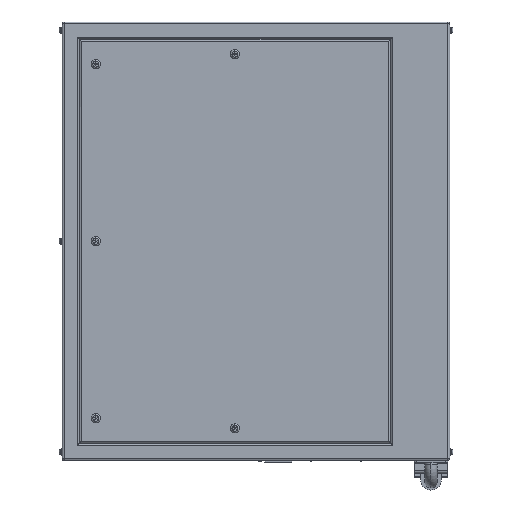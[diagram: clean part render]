
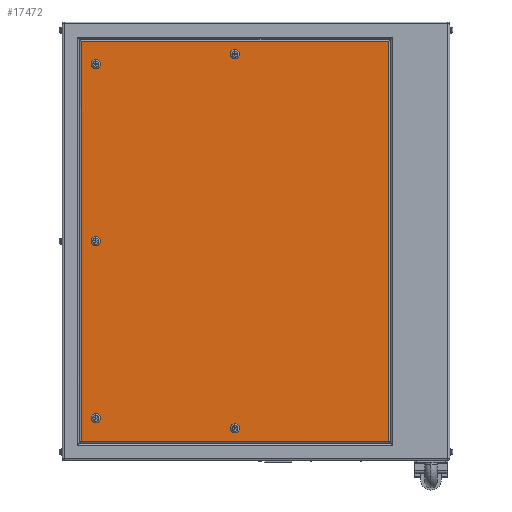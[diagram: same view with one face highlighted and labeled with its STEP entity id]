
A CAD part, left-side view. The second image highlights one B-rep face of the part: STEP entity #17472.
In plain terms, the highlighted planar face has unit normal (-1, 0, 0).
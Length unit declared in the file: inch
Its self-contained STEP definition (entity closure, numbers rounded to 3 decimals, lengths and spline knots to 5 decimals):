
#145 = CARTESIAN_POINT ( 'NONE',  ( -12., 23., -26. ) ) ;
#448 = DIRECTION ( 'NONE',  ( 1., 0., 0. ) ) ;
#458 = DIRECTION ( 'NONE',  ( 1., 0., 0. ) ) ;
#465 = ORIENTED_EDGE ( 'NONE', *, *, #19502, .T. ) ;
#794 = EDGE_CURVE ( 'NONE', #7923, #2666, #20887, .T. ) ;
#887 = CARTESIAN_POINT ( 'NONE',  ( -12., 2.5, -21.64 ) ) ;
#1031 = EDGE_CURVE ( 'NONE', #2841, #5471, #5040, .T. ) ;
#1073 = EDGE_LOOP ( 'NONE', ( #24001, #21804 ) ) ;
#1348 = ORIENTED_EDGE ( 'NONE', *, *, #5578, .T. ) ;
#1767 = LINE ( 'NONE', #19506, #7231 ) ;
#1866 = AXIS2_PLACEMENT_3D ( 'NONE', #4134, #448, #7907 ) ;
#2500 = DIRECTION ( 'NONE',  ( 0., 0., -1. ) ) ;
#2578 = DIRECTION ( 'NONE',  ( 0., 0., 1. ) ) ;
#2666 = VERTEX_POINT ( 'NONE', #11913 ) ;
#2757 = LINE ( 'NONE', #15377, #14187 ) ;
#2841 = VERTEX_POINT ( 'NONE', #3549 ) ;
#3188 = DIRECTION ( 'NONE',  ( 0., 0., -1. ) ) ;
#3419 = CIRCLE ( 'NONE', #16991, 0.55 ) ;
#3549 = CARTESIAN_POINT ( 'NONE',  ( -12., 19., -20.45 ) ) ;
#3644 = CARTESIAN_POINT ( 'NONE',  ( -12., 2.5, 22.19 ) ) ;
#4032 = AXIS2_PLACEMENT_3D ( 'NONE', #12171, #17803, #2578 ) ;
#4052 = ORIENTED_EDGE ( 'NONE', *, *, #13718, .T. ) ;
#4063 = CIRCLE ( 'NONE', #18862, 0.55 ) ;
#4134 = CARTESIAN_POINT ( 'NONE',  ( -12., 2.5, -22.19 ) ) ;
#4142 = AXIS2_PLACEMENT_3D ( 'NONE', #6626, #14022, #8064 ) ;
#4162 = EDGE_LOOP ( 'NONE', ( #6390, #24004, #19660, #1348 ) ) ;
#4254 = VERTEX_POINT ( 'NONE', #11361 ) ;
#4354 = EDGE_CURVE ( 'NONE', #21518, #13453, #13665, .T. ) ;
#4669 = CARTESIAN_POINT ( 'NONE',  ( -12., 23., 23.74 ) ) ;
#4746 = DIRECTION ( 'NONE',  ( 0., -1., 0. ) ) ;
#4821 = CIRCLE ( 'NONE', #10273, 0.55 ) ;
#4961 = EDGE_LOOP ( 'NONE', ( #6356, #7860 ) ) ;
#5040 = CIRCLE ( 'NONE', #18657, 0.55 ) ;
#5082 = CIRCLE ( 'NONE', #8168, 0.55 ) ;
#5094 = FACE_BOUND ( 'NONE', #15494, .T. ) ;
#5199 = ORIENTED_EDGE ( 'NONE', *, *, #14378, .T. ) ;
#5210 = FACE_BOUND ( 'NONE', #16917, .T. ) ;
#5213 = CARTESIAN_POINT ( 'NONE',  ( -12., 19., -21. ) ) ;
#5471 = VERTEX_POINT ( 'NONE', #13075 ) ;
#5578 = EDGE_CURVE ( 'NONE', #13453, #14496, #2757, .T. ) ;
#6319 = EDGE_CURVE ( 'NONE', #5471, #2841, #4821, .T. ) ;
#6356 = ORIENTED_EDGE ( 'NONE', *, *, #11640, .T. ) ;
#6390 = ORIENTED_EDGE ( 'NONE', *, *, #14807, .T. ) ;
#6571 = AXIS2_PLACEMENT_3D ( 'NONE', #145, #9212, #15262 ) ;
#6626 = CARTESIAN_POINT ( 'NONE',  ( -12., 19., 21. ) ) ;
#6696 = CARTESIAN_POINT ( 'NONE',  ( -12., 19., 0. ) ) ;
#6907 = FACE_BOUND ( 'NONE', #1073, .T. ) ;
#6936 = VERTEX_POINT ( 'NONE', #19802 ) ;
#7231 = VECTOR ( 'NONE', #4746, 39.37008 ) ;
#7738 = VERTEX_POINT ( 'NONE', #20113 ) ;
#7860 = ORIENTED_EDGE ( 'NONE', *, *, #10520, .T. ) ;
#7907 = DIRECTION ( 'NONE',  ( 0., 0., 1. ) ) ;
#7914 = DIRECTION ( 'NONE',  ( 0., 0., -1. ) ) ;
#7923 = VERTEX_POINT ( 'NONE', #8467 ) ;
#8064 = DIRECTION ( 'NONE',  ( 0., 0., -1. ) ) ;
#8168 = AXIS2_PLACEMENT_3D ( 'NONE', #3644, #18521, #9237 ) ;
#8364 = CARTESIAN_POINT ( 'NONE',  ( -12., 19., -21. ) ) ;
#8467 = CARTESIAN_POINT ( 'NONE',  ( -12., 19., 21.55 ) ) ;
#8725 = CARTESIAN_POINT ( 'NONE',  ( -12., 2.5, 21.64 ) ) ;
#9212 = DIRECTION ( 'NONE',  ( 1., 0., 0. ) ) ;
#9237 = DIRECTION ( 'NONE',  ( 0., 0., -1. ) ) ;
#9583 = CARTESIAN_POINT ( 'NONE',  ( -12., 19., -0.55 ) ) ;
#9745 = CARTESIAN_POINT ( 'NONE',  ( -12., 19., 21. ) ) ;
#9869 = VERTEX_POINT ( 'NONE', #887 ) ;
#10104 = CARTESIAN_POINT ( 'NONE',  ( -12., 19., 0. ) ) ;
#10273 = AXIS2_PLACEMENT_3D ( 'NONE', #8364, #17141, #22713 ) ;
#10337 = DIRECTION ( 'NONE',  ( 1., 0., 0. ) ) ;
#10520 = EDGE_CURVE ( 'NONE', #6936, #14129, #3419, .T. ) ;
#10678 = PLANE ( 'NONE',  #6571 ) ;
#11174 = AXIS2_PLACEMENT_3D ( 'NONE', #15072, #18875, #20593 ) ;
#11361 = CARTESIAN_POINT ( 'NONE',  ( -12., 2.5, 22.74 ) ) ;
#11640 = EDGE_CURVE ( 'NONE', #14129, #6936, #23550, .T. ) ;
#11913 = CARTESIAN_POINT ( 'NONE',  ( -12., 19., 20.45 ) ) ;
#12088 = DIRECTION ( 'NONE',  ( 0., 1., 0. ) ) ;
#12171 = CARTESIAN_POINT ( 'NONE',  ( -12., 2.5, -22.19 ) ) ;
#12339 = CIRCLE ( 'NONE', #1866, 0.55 ) ;
#12503 = FACE_OUTER_BOUND ( 'NONE', #4162, .T. ) ;
#12993 = VERTEX_POINT ( 'NONE', #19299 ) ;
#13075 = CARTESIAN_POINT ( 'NONE',  ( -12., 19., -21.55 ) ) ;
#13453 = VERTEX_POINT ( 'NONE', #17933 ) ;
#13665 = LINE ( 'NONE', #4669, #14142 ) ;
#13718 = EDGE_CURVE ( 'NONE', #9869, #12993, #18060, .T. ) ;
#14022 = DIRECTION ( 'NONE',  ( 1., 0., 0. ) ) ;
#14129 = VERTEX_POINT ( 'NONE', #9583 ) ;
#14142 = VECTOR ( 'NONE', #12088, 39.37008 ) ;
#14187 = VECTOR ( 'NONE', #2500, 39.37008 ) ;
#14330 = FACE_BOUND ( 'NONE', #4961, .T. ) ;
#14378 = EDGE_CURVE ( 'NONE', #2666, #7923, #4063, .T. ) ;
#14496 = VERTEX_POINT ( 'NONE', #14999 ) ;
#14800 = DIRECTION ( 'NONE',  ( 0., 0., -1. ) ) ;
#14807 = EDGE_CURVE ( 'NONE', #14496, #7738, #1767, .T. ) ;
#14814 = CARTESIAN_POINT ( 'NONE',  ( -12., -15.74, -26. ) ) ;
#14999 = CARTESIAN_POINT ( 'NONE',  ( -12., 20.74, -23.74 ) ) ;
#15072 = CARTESIAN_POINT ( 'NONE',  ( -12., 2.5, 22.19 ) ) ;
#15262 = DIRECTION ( 'NONE',  ( 0., 0., -1. ) ) ;
#15377 = CARTESIAN_POINT ( 'NONE',  ( -12., 20.74, -26. ) ) ;
#15494 = EDGE_LOOP ( 'NONE', ( #5199, #18768 ) ) ;
#16642 = DIRECTION ( 'NONE',  ( 1., 0., 0. ) ) ;
#16917 = EDGE_LOOP ( 'NONE', ( #22580, #4052 ) ) ;
#16991 = AXIS2_PLACEMENT_3D ( 'NONE', #6696, #19857, #3188 ) ;
#17114 = EDGE_CURVE ( 'NONE', #12993, #9869, #12339, .T. ) ;
#17141 = DIRECTION ( 'NONE',  ( 1., 0., 0. ) ) ;
#17447 = VERTEX_POINT ( 'NONE', #8725 ) ;
#17472 = ADVANCED_FACE ( 'NONE', ( #5210, #23547, #6907, #14330, #5094, #12503 ), #10678, .F. ) ;
#17803 = DIRECTION ( 'NONE',  ( 1., 0., 0. ) ) ;
#17933 = CARTESIAN_POINT ( 'NONE',  ( -12., 20.74, 23.74 ) ) ;
#18060 = CIRCLE ( 'NONE', #4032, 0.55 ) ;
#18111 = CARTESIAN_POINT ( 'NONE',  ( -12., -15.74, 23.74 ) ) ;
#18521 = DIRECTION ( 'NONE',  ( 1., 0., 0. ) ) ;
#18627 = EDGE_LOOP ( 'NONE', ( #465, #23616 ) ) ;
#18657 = AXIS2_PLACEMENT_3D ( 'NONE', #5213, #16642, #14800 ) ;
#18768 = ORIENTED_EDGE ( 'NONE', *, *, #794, .T. ) ;
#18862 = AXIS2_PLACEMENT_3D ( 'NONE', #9745, #458, #7914 ) ;
#18875 = DIRECTION ( 'NONE',  ( 1., 0., 0. ) ) ;
#19299 = CARTESIAN_POINT ( 'NONE',  ( -12., 2.5, -22.74 ) ) ;
#19502 = EDGE_CURVE ( 'NONE', #17447, #4254, #21682, .T. ) ;
#19504 = DIRECTION ( 'NONE',  ( 0., 0., -1. ) ) ;
#19506 = CARTESIAN_POINT ( 'NONE',  ( -12., 23., -23.74 ) ) ;
#19660 = ORIENTED_EDGE ( 'NONE', *, *, #4354, .T. ) ;
#19802 = CARTESIAN_POINT ( 'NONE',  ( -12., 19., 0.55 ) ) ;
#19857 = DIRECTION ( 'NONE',  ( 1., 0., 0. ) ) ;
#20113 = CARTESIAN_POINT ( 'NONE',  ( -12., -15.74, -23.74 ) ) ;
#20471 = VECTOR ( 'NONE', #22231, 39.37008 ) ;
#20593 = DIRECTION ( 'NONE',  ( 0., 0., -1. ) ) ;
#20869 = AXIS2_PLACEMENT_3D ( 'NONE', #10104, #10337, #19504 ) ;
#20887 = CIRCLE ( 'NONE', #4142, 0.55 ) ;
#21225 = EDGE_CURVE ( 'NONE', #7738, #21518, #21881, .T. ) ;
#21518 = VERTEX_POINT ( 'NONE', #18111 ) ;
#21682 = CIRCLE ( 'NONE', #11174, 0.55 ) ;
#21804 = ORIENTED_EDGE ( 'NONE', *, *, #1031, .T. ) ;
#21881 = LINE ( 'NONE', #14814, #20471 ) ;
#22231 = DIRECTION ( 'NONE',  ( 0., 0., 1. ) ) ;
#22527 = EDGE_CURVE ( 'NONE', #4254, #17447, #5082, .T. ) ;
#22580 = ORIENTED_EDGE ( 'NONE', *, *, #17114, .T. ) ;
#22713 = DIRECTION ( 'NONE',  ( 0., 0., -1. ) ) ;
#23547 = FACE_BOUND ( 'NONE', #18627, .T. ) ;
#23550 = CIRCLE ( 'NONE', #20869, 0.55 ) ;
#23616 = ORIENTED_EDGE ( 'NONE', *, *, #22527, .T. ) ;
#24001 = ORIENTED_EDGE ( 'NONE', *, *, #6319, .T. ) ;
#24004 = ORIENTED_EDGE ( 'NONE', *, *, #21225, .T. ) ;
